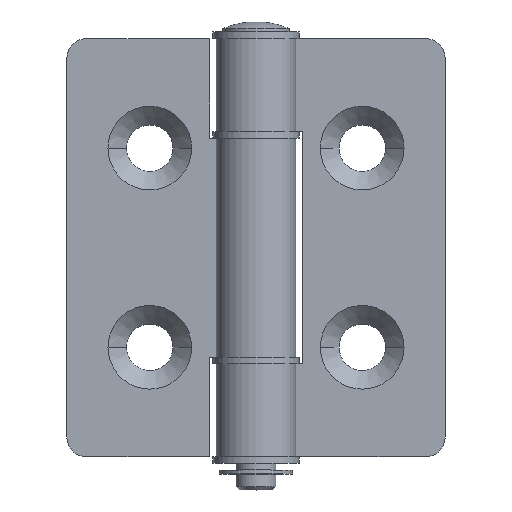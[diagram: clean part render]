
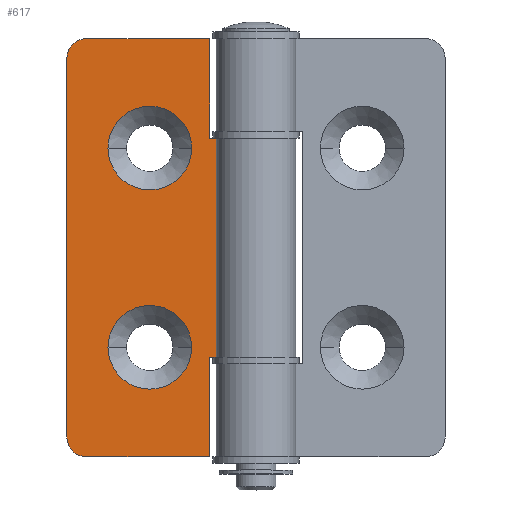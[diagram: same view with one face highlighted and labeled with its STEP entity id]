
A CAD part, top view. The second image highlights one B-rep face of the part: STEP entity #617.
In plain terms, the highlighted planar face has unit normal (0, 0, 1).
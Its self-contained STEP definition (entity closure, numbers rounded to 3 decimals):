
#15 = AXIS2_PLACEMENT_3D ( 'NONE', #581, #2438, #1190 ) ;
#53 = ORIENTED_EDGE ( 'NONE', *, *, #856, .F. ) ;
#54 = DIRECTION ( 'NONE',  ( 0., 0., 1. ) ) ;
#56 = VERTEX_POINT ( 'NONE', #2399 ) ;
#65 = CARTESIAN_POINT ( 'NONE',  ( -28.5, 63., -3. ) ) ;
#89 = CARTESIAN_POINT ( 'NONE',  ( -7., 63., -3. ) ) ;
#95 = EDGE_LOOP ( 'NONE', ( #474, #498, #682, #1705, #1203, #2371, #272, #745, #1649, #1293 ) ) ;
#110 = LINE ( 'NONE', #141, #1136 ) ;
#115 = CARTESIAN_POINT ( 'NONE',  ( -7., 15., -3. ) ) ;
#121 = DIRECTION ( 'NONE',  ( 0., 0., 1. ) ) ;
#141 = CARTESIAN_POINT ( 'NONE',  ( -28.5, 15., -3. ) ) ;
#149 = CARTESIAN_POINT ( 'NONE',  ( -7., 63., -3. ) ) ;
#193 = EDGE_LOOP ( 'NONE', ( #53, #2627 ) ) ;
#217 = DIRECTION ( 'NONE',  ( 1., 0., 0. ) ) ;
#220 = EDGE_LOOP ( 'NONE', ( #804, #1433 ) ) ;
#224 = VERTEX_POINT ( 'NONE', #1878 ) ;
#236 = CARTESIAN_POINT ( 'NONE',  ( -7., 48., -3. ) ) ;
#272 = ORIENTED_EDGE ( 'NONE', *, *, #2518, .T. ) ;
#276 = EDGE_CURVE ( 'NONE', #435, #920, #1213, .T. ) ;
#331 = CARTESIAN_POINT ( 'NONE',  ( -28.5, 60., -3. ) ) ;
#333 = EDGE_CURVE ( 'NONE', #1574, #1525, #1633, .T. ) ;
#435 = VERTEX_POINT ( 'NONE', #2128 ) ;
#448 = FACE_OUTER_BOUND ( 'NONE', #95, .T. ) ;
#452 = CARTESIAN_POINT ( 'NONE',  ( -28.5, 63., -3. ) ) ;
#462 = VERTEX_POINT ( 'NONE', #115 ) ;
#467 = VECTOR ( 'NONE', #1043, 1000. ) ;
#474 = ORIENTED_EDGE ( 'NONE', *, *, #2478, .T. ) ;
#498 = ORIENTED_EDGE ( 'NONE', *, *, #2227, .T. ) ;
#581 = CARTESIAN_POINT ( 'NONE',  ( -28.5, 63., -3. ) ) ;
#610 = DIRECTION ( 'NONE',  ( 0., 0., 1. ) ) ;
#617 = ADVANCED_FACE ( 'NONE', ( #1117, #1174, #448 ), #1386, .F. ) ;
#636 = DIRECTION ( 'NONE',  ( 0., 0., 1. ) ) ;
#682 = ORIENTED_EDGE ( 'NONE', *, *, #1071, .T. ) ;
#714 = DIRECTION ( 'NONE',  ( 0., 1., 0. ) ) ;
#722 = CIRCLE ( 'NONE', #1704, 6.3 ) ;
#745 = ORIENTED_EDGE ( 'NONE', *, *, #1210, .T. ) ;
#754 = LINE ( 'NONE', #2065, #1854 ) ;
#756 = CARTESIAN_POINT ( 'NONE',  ( -16., 16.5, -3. ) ) ;
#766 = CARTESIAN_POINT ( 'NONE',  ( -9.7, 16.5, -3. ) ) ;
#804 = ORIENTED_EDGE ( 'NONE', *, *, #2287, .F. ) ;
#856 = EDGE_CURVE ( 'NONE', #920, #435, #1755, .T. ) ;
#863 = EDGE_CURVE ( 'NONE', #462, #2378, #110, .T. ) ;
#920 = VERTEX_POINT ( 'NONE', #766 ) ;
#955 = LINE ( 'NONE', #2464, #2487 ) ;
#957 = LINE ( 'NONE', #2307, #1931 ) ;
#962 = DIRECTION ( 'NONE',  ( 1., 0., 0. ) ) ;
#978 = VECTOR ( 'NONE', #714, 1000. ) ;
#1008 = LINE ( 'NONE', #2278, #467 ) ;
#1013 = DIRECTION ( 'NONE',  ( 0., 1., 0. ) ) ;
#1042 = VERTEX_POINT ( 'NONE', #2262 ) ;
#1043 = DIRECTION ( 'NONE',  ( -1., 0., 0. ) ) ;
#1053 = DIRECTION ( 'NONE',  ( 0., 0., 1. ) ) ;
#1057 = CARTESIAN_POINT ( 'NONE',  ( -25.5, 0., -3. ) ) ;
#1061 = DIRECTION ( 'NONE',  ( 0., -1., 0. ) ) ;
#1068 = AXIS2_PLACEMENT_3D ( 'NONE', #2297, #1053, #2502 ) ;
#1071 = EDGE_CURVE ( 'NONE', #1142, #1412, #754, .T. ) ;
#1088 = VECTOR ( 'NONE', #1492, 1000. ) ;
#1117 = FACE_BOUND ( 'NONE', #220, .T. ) ;
#1133 = LINE ( 'NONE', #452, #1809 ) ;
#1136 = VECTOR ( 'NONE', #1581, 1000. ) ;
#1142 = VERTEX_POINT ( 'NONE', #1057 ) ;
#1174 = FACE_BOUND ( 'NONE', #193, .T. ) ;
#1190 = DIRECTION ( 'NONE',  ( -1., 0., 0. ) ) ;
#1203 = ORIENTED_EDGE ( 'NONE', *, *, #863, .T. ) ;
#1210 = EDGE_CURVE ( 'NONE', #2545, #1525, #1522, .T. ) ;
#1213 = CIRCLE ( 'NONE', #1215, 6.3 ) ;
#1215 = AXIS2_PLACEMENT_3D ( 'NONE', #1284, #54, #1485 ) ;
#1249 = AXIS2_PLACEMENT_3D ( 'NONE', #756, #2198, #962 ) ;
#1284 = CARTESIAN_POINT ( 'NONE',  ( -16., 16.5, -3. ) ) ;
#1293 = ORIENTED_EDGE ( 'NONE', *, *, #1718, .T. ) ;
#1298 = EDGE_CURVE ( 'NONE', #1042, #224, #722, .T. ) ;
#1329 = VERTEX_POINT ( 'NONE', #331 ) ;
#1345 = CARTESIAN_POINT ( 'NONE',  ( -16., 46.5, -3. ) ) ;
#1386 = PLANE ( 'NONE',  #15 ) ;
#1412 = VERTEX_POINT ( 'NONE', #1586 ) ;
#1420 = CIRCLE ( 'NONE', #1068, 3. ) ;
#1433 = ORIENTED_EDGE ( 'NONE', *, *, #1298, .F. ) ;
#1448 = CARTESIAN_POINT ( 'NONE',  ( -5.196, 15., -3. ) ) ;
#1485 = DIRECTION ( 'NONE',  ( 1., 0., 0. ) ) ;
#1492 = DIRECTION ( 'NONE',  ( 1., 0., 0. ) ) ;
#1522 = LINE ( 'NONE', #89, #978 ) ;
#1525 = VERTEX_POINT ( 'NONE', #149 ) ;
#1556 = DIRECTION ( 'NONE',  ( 1., 0., 0. ) ) ;
#1574 = VERTEX_POINT ( 'NONE', #1811 ) ;
#1581 = DIRECTION ( 'NONE',  ( 1., 0., 0. ) ) ;
#1586 = CARTESIAN_POINT ( 'NONE',  ( -7., 0., -3. ) ) ;
#1633 = LINE ( 'NONE', #65, #1088 ) ;
#1649 = ORIENTED_EDGE ( 'NONE', *, *, #333, .F. ) ;
#1652 = CIRCLE ( 'NONE', #2622, 6.3 ) ;
#1676 = DIRECTION ( 'NONE',  ( 0., -1., 0. ) ) ;
#1704 = AXIS2_PLACEMENT_3D ( 'NONE', #1345, #121, #1556 ) ;
#1705 = ORIENTED_EDGE ( 'NONE', *, *, #2149, .T. ) ;
#1718 = EDGE_CURVE ( 'NONE', #1574, #1329, #1420, .T. ) ;
#1719 = VERTEX_POINT ( 'NONE', #1864 ) ;
#1755 = CIRCLE ( 'NONE', #1249, 6.3 ) ;
#1809 = VECTOR ( 'NONE', #1676, 1000. ) ;
#1811 = CARTESIAN_POINT ( 'NONE',  ( -25.5, 63., -3. ) ) ;
#1836 = CARTESIAN_POINT ( 'NONE',  ( -16., 46.5, -3. ) ) ;
#1854 = VECTOR ( 'NONE', #217, 1000. ) ;
#1860 = CARTESIAN_POINT ( 'NONE',  ( -25.5, 3., -3. ) ) ;
#1864 = CARTESIAN_POINT ( 'NONE',  ( -5.196, 48., -3. ) ) ;
#1878 = CARTESIAN_POINT ( 'NONE',  ( -9.7, 46.5, -3. ) ) ;
#1931 = VECTOR ( 'NONE', #1061, 1000. ) ;
#2038 = DIRECTION ( 'NONE',  ( 1., 0., 0. ) ) ;
#2065 = CARTESIAN_POINT ( 'NONE',  ( -28.5, 0., -3. ) ) ;
#2067 = DIRECTION ( 'NONE',  ( -1., 0., 0. ) ) ;
#2128 = CARTESIAN_POINT ( 'NONE',  ( -22.3, 16.5, -3. ) ) ;
#2149 = EDGE_CURVE ( 'NONE', #1412, #462, #955, .T. ) ;
#2198 = DIRECTION ( 'NONE',  ( 0., 0., 1. ) ) ;
#2227 = EDGE_CURVE ( 'NONE', #56, #1142, #2339, .T. ) ;
#2262 = CARTESIAN_POINT ( 'NONE',  ( -22.3, 46.5, -3. ) ) ;
#2278 = CARTESIAN_POINT ( 'NONE',  ( -28.5, 48., -3. ) ) ;
#2287 = EDGE_CURVE ( 'NONE', #224, #1042, #1652, .T. ) ;
#2297 = CARTESIAN_POINT ( 'NONE',  ( -25.5, 60., -3. ) ) ;
#2307 = CARTESIAN_POINT ( 'NONE',  ( -5.196, 63., -3. ) ) ;
#2339 = CIRCLE ( 'NONE', #2350, 3. ) ;
#2350 = AXIS2_PLACEMENT_3D ( 'NONE', #1860, #636, #2067 ) ;
#2371 = ORIENTED_EDGE ( 'NONE', *, *, #2572, .F. ) ;
#2378 = VERTEX_POINT ( 'NONE', #1448 ) ;
#2399 = CARTESIAN_POINT ( 'NONE',  ( -28.5, 3., -3. ) ) ;
#2438 = DIRECTION ( 'NONE',  ( 0., 0., -1. ) ) ;
#2464 = CARTESIAN_POINT ( 'NONE',  ( -7., 63., -3. ) ) ;
#2478 = EDGE_CURVE ( 'NONE', #1329, #56, #1133, .T. ) ;
#2487 = VECTOR ( 'NONE', #1013, 1000. ) ;
#2502 = DIRECTION ( 'NONE',  ( -1., 0., 0. ) ) ;
#2518 = EDGE_CURVE ( 'NONE', #1719, #2545, #1008, .T. ) ;
#2545 = VERTEX_POINT ( 'NONE', #236 ) ;
#2572 = EDGE_CURVE ( 'NONE', #1719, #2378, #957, .T. ) ;
#2622 = AXIS2_PLACEMENT_3D ( 'NONE', #1836, #610, #2038 ) ;
#2627 = ORIENTED_EDGE ( 'NONE', *, *, #276, .F. ) ;
